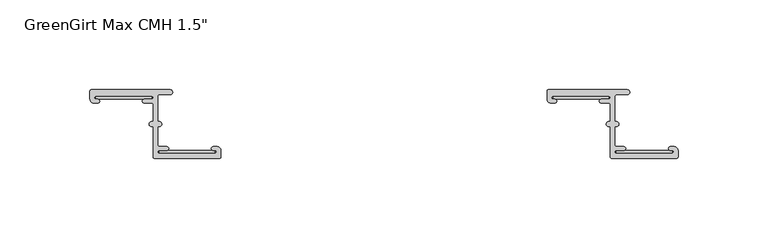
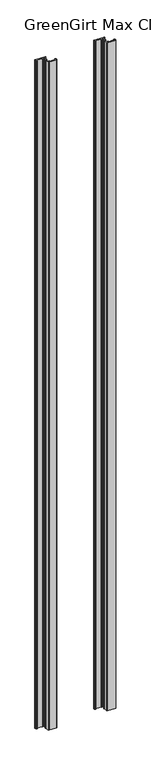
"""IFC4 building model written with IfcOpenShell, lengths in millimetres: fastener geometry."""

from ifc_helpers import new_model, si_unit, frame, origin, origin_with_axes, place, context, project, spatial, polyline, circle_curve, outline, extrude, source, transform, mapped, element, save
from ifc_brep_helpers import plane_surface, cylinder_surface, revolved_surface, advanced_brep


def fastener_8ece5dc1(model_context):
    return source(origin(), model_context, "Body", "SolidModel", [
        advanced_brep(
        [(308.102, -3.556, 3048.0), (339.09, -3.556, 3048.0), (339.09, -5.2832, 3048.0), (334.899, -5.2832, 3048.0), (334.899, -7.3152, 3048.0), (339.09, -7.3152, 3048.0), (339.852, -8.0772, 3048.0), (339.852, -17.7601563, 3048.0), (339.0035567, -17.7601563, 3048.0), (339.0035567, -20.4288947, 3048.0), (339.852, -20.4288947, 3048.0), (339.852, -37.3379766, 3048.0), (340.614, -38.0999766, 3048.0), (376.8513242, -38.1, 3048.0), (377.571, -37.3379766, 3048.0), (377.571, -33.7057766, 3048.0), (375.539, -31.6737766, 3048.0), (373.253, -31.6737766, 3048.0), (373.253, -33.7057766, 3048.0), (374.269, -33.7057766, 3048.0), (374.269, -35.4329766, 3048.0), (343.281, -35.4329766, 3048.0), (343.281, -33.7057766, 3048.0), (347.472, -33.7057766, 3048.0), (347.472, -31.6737766, 3048.0), (343.281, -31.6737766, 3048.0), (342.519, -30.9117766, 3048.0), (342.519, -20.4279799, 3048.0), (343.3679007, -20.4279799, 3048.0), (343.3679007, -17.7601563, 3048.0), (342.519, -17.7601563, 3048.0), (342.519, -3.429, 3048.0), (343.281, -2.667, 3048.0), (349.377, -2.667, 3048.0), (349.377, 0.0, 3048.0), (305.562, 0.0, 3048.0), (304.8, -0.762, 3048.0), (304.8, -5.2832, 3048.0), (306.832, -7.3152, 3048.0), (309.118, -7.3152, 3048.0), (309.118, -5.2832, 3048.0), (308.102, -5.2832, 3048.0), (308.102, -3.556, 0.0), (308.102, -5.2832, 0.0), (309.118, -5.2832, 0.0), (309.118, -7.3152, 0.0), (306.832, -7.3152, 0.0), (304.8, -5.2832, 0.0), (304.8, -0.762, 0.0), (305.562, 0.0, 0.0), (349.377, 0.0, 0.0), (349.377, -2.667, 0.0), (343.281, -2.667, 0.0), (342.519, -3.429, 0.0), (342.519, -17.7601563, 0.0), (343.3679007, -17.7601563, 0.0), (343.3679007, -20.4279799, 0.0), (342.519, -20.4279799, 0.0), (342.519, -30.9117766, 0.0), (343.281, -31.6737766, 0.0), (347.472, -31.6737766, 0.0), (347.472, -33.7057766, 0.0), (343.281, -33.7057766, 0.0), (343.281, -35.4329766, 0.0), (374.269, -35.4329766, 0.0), (374.269, -33.7057766, 0.0), (373.253, -33.7057766, 0.0), (373.253, -31.6737766, 0.0), (375.539, -31.6737766, 0.0), (377.571, -33.7057766, 0.0), (377.571, -37.3379766, 0.0), (376.809, -38.0999766, 0.0), (340.7467826, -38.1, 0.0), (339.852, -37.3379766, 0.0), (339.852, -20.4288947, 0.0), (339.0035567, -20.4288947, 0.0), (339.0035567, -17.7601563, 0.0), (339.852, -17.7601563, 0.0), (339.852, -8.0772, 0.0), (339.09, -7.3152, 0.0), (334.899, -7.3152, 0.0), (334.899, -5.2832, 0.0), (339.09, -5.2832, 0.0), (339.09, -3.556, 0.0)],
        [
            (0, 1),
            (1, 2, circle_curve(frame((339.09, -4.4196, 3048.0), z_axis=(0.0, 0.0, -1.0), x_axis=(1.0, 0.0, 0.0)), 0.8636)),
            (2, 3),
            (3, 4, circle_curve(frame((334.899, -6.2992, 3048.0), z_axis=(0.0, 0.0, 1.0), x_axis=(1.0, 0.0, 0.0)), 1.016)),
            (4, 5),
            (5, 6, circle_curve(frame((339.09, -8.0772, 3048.0), z_axis=(0.0, 0.0, -1.0), x_axis=(1.0, 0.0, 0.0)), 0.762)),
            (6, 7),
            (7, 8),
            (8, 9, circle_curve(frame((339.0035567, -19.0945255, 3048.0), z_axis=(0.0, 0.0, 1.0), x_axis=(1.0, 0.0, 0.0)), 1.3343692)),
            (9, 10),
            (10, 11),
            (11, 12, circle_curve(frame((340.614, -37.3379766, 3048.0), z_axis=(0.0, 0.0, 1.0), x_axis=(1.0, 0.0, 0.0)), 0.762)),
            (12, 13),
            (13, 14, circle_curve(frame((376.809, -37.3379766, 3048.0), z_axis=(0.0, 0.0, 1.0), x_axis=(1.0, 0.0, 0.0)), 0.762)),
            (14, 15),
            (15, 16, circle_curve(frame((375.539, -33.7057766, 3048.0), z_axis=(0.0, 0.0, 1.0), x_axis=(1.0, 0.0, 0.0)), 2.032)),
            (16, 17),
            (17, 18, circle_curve(frame((373.253, -32.6897766, 3048.0), z_axis=(0.0, 0.0, 1.0), x_axis=(1.0, 0.0, 0.0)), 1.016)),
            (18, 19),
            (19, 20, circle_curve(frame((374.269, -34.5693766, 3048.0), z_axis=(0.0, 0.0, -1.0), x_axis=(1.0, 0.0, 0.0)), 0.8636)),
            (20, 21),
            (21, 22, circle_curve(frame((343.281, -34.5693766, 3048.0), z_axis=(0.0, 0.0, -1.0), x_axis=(1.0, 0.0, 0.0)), 0.8636)),
            (22, 23),
            (23, 24, circle_curve(frame((347.472, -32.6897766, 3048.0), z_axis=(0.0, 0.0, 1.0), x_axis=(1.0, 0.0, 0.0)), 1.016)),
            (24, 25),
            (25, 26, circle_curve(frame((343.281, -30.9117766, 3048.0), z_axis=(0.0, 0.0, -1.0), x_axis=(1.0, 0.0, 0.0)), 0.762)),
            (26, 27),
            (27, 28),
            (28, 29, circle_curve(frame((343.3679007, -19.0940681, 3048.0), z_axis=(0.0, 0.0, 1.0), x_axis=(1.0, 0.0, 0.0)), 1.3339118)),
            (29, 30),
            (30, 31),
            (31, 32, circle_curve(frame((343.281, -3.429, 3048.0), z_axis=(0.0, 0.0, -1.0), x_axis=(1.0, 0.0, 0.0)), 0.762)),
            (32, 33),
            (33, 34, circle_curve(frame((349.377, -1.3335, 3048.0), z_axis=(0.0, 0.0, 1.0), x_axis=(1.0, 0.0, 0.0)), 1.3335)),
            (34, 35),
            (35, 36, circle_curve(frame((305.562, -0.762, 3048.0), z_axis=(0.0, 0.0, 1.0), x_axis=(1.0, 0.0, 0.0)), 0.762)),
            (36, 37),
            (37, 38, circle_curve(frame((306.832, -5.2832, 3048.0), z_axis=(0.0, 0.0, 1.0), x_axis=(1.0, 0.0, 0.0)), 2.032)),
            (38, 39),
            (39, 40, circle_curve(frame((309.118, -6.2992, 3048.0), z_axis=(0.0, 0.0, 1.0), x_axis=(1.0, 0.0, 0.0)), 1.016)),
            (40, 41),
            (41, 0, circle_curve(frame((308.102, -4.4196, 3048.0), z_axis=(0.0, 0.0, -1.0), x_axis=(1.0, 0.0, 0.0)), 0.8636)),
            (42, 43, circle_curve(frame((308.102, -4.4196, 0.0), z_axis=(0.0, 0.0, 1.0), x_axis=(1.0, 0.0, 0.0)), 0.8636)),
            (43, 44),
            (44, 45, circle_curve(frame((309.118, -6.2992, 0.0), z_axis=(0.0, 0.0, -1.0), x_axis=(1.0, 0.0, 0.0)), 1.016)),
            (45, 46),
            (46, 47, circle_curve(frame((306.832, -5.2832, 0.0), z_axis=(0.0, 0.0, -1.0), x_axis=(1.0, 0.0, 0.0)), 2.032)),
            (47, 48),
            (48, 49, circle_curve(frame((305.562, -0.762, 0.0), z_axis=(0.0, 0.0, -1.0), x_axis=(1.0, 0.0, 0.0)), 0.762)),
            (49, 50),
            (50, 51, circle_curve(frame((349.377, -1.3335, 0.0), z_axis=(0.0, 0.0, -1.0), x_axis=(1.0, 0.0, 0.0)), 1.3335)),
            (51, 52),
            (52, 53, circle_curve(frame((343.281, -3.429, 0.0), z_axis=(0.0, 0.0, 1.0), x_axis=(1.0, 0.0, 0.0)), 0.762)),
            (53, 54),
            (54, 55),
            (55, 56, circle_curve(frame((343.3679007, -19.0940681, 0.0), z_axis=(0.0, 0.0, -1.0), x_axis=(1.0, 0.0, 0.0)), 1.3339118)),
            (56, 57),
            (57, 58),
            (58, 59, circle_curve(frame((343.281, -30.9117766, 0.0), z_axis=(0.0, 0.0, 1.0), x_axis=(1.0, 0.0, 0.0)), 0.762)),
            (59, 60),
            (60, 61, circle_curve(frame((347.472, -32.6897766, 0.0), z_axis=(0.0, 0.0, -1.0), x_axis=(1.0, 0.0, 0.0)), 1.016)),
            (61, 62),
            (62, 63, circle_curve(frame((343.281, -34.5693766, 0.0), z_axis=(0.0, 0.0, 1.0), x_axis=(1.0, 0.0, 0.0)), 0.8636)),
            (63, 64),
            (64, 65, circle_curve(frame((374.269, -34.5693766, 0.0), z_axis=(0.0, 0.0, 1.0), x_axis=(1.0, 0.0, 0.0)), 0.8636)),
            (65, 66),
            (66, 67, circle_curve(frame((373.253, -32.6897766, 0.0), z_axis=(0.0, 0.0, -1.0), x_axis=(1.0, 0.0, 0.0)), 1.016)),
            (67, 68),
            (68, 69, circle_curve(frame((375.539, -33.7057766, 0.0), z_axis=(0.0, 0.0, -1.0), x_axis=(1.0, 0.0, 0.0)), 2.032)),
            (69, 70),
            (70, 71, circle_curve(frame((376.809, -37.3379766, 0.0), z_axis=(0.0, 0.0, -1.0), x_axis=(1.0, 0.0, 0.0)), 0.762)),
            (71, 72),
            (72, 73, circle_curve(frame((340.614, -37.3379766, 0.0), z_axis=(0.0, 0.0, -1.0), x_axis=(1.0, 0.0, 0.0)), 0.762)),
            (73, 74),
            (74, 75),
            (75, 76, circle_curve(frame((339.0035567, -19.0945255, 0.0), z_axis=(0.0, 0.0, -1.0), x_axis=(1.0, 0.0, 0.0)), 1.3343692)),
            (76, 77),
            (77, 78),
            (78, 79, circle_curve(frame((339.09, -8.0772, 0.0), z_axis=(0.0, 0.0, 1.0), x_axis=(1.0, 0.0, 0.0)), 0.762)),
            (79, 80),
            (80, 81, circle_curve(frame((334.899, -6.2992, 0.0), z_axis=(0.0, 0.0, -1.0), x_axis=(1.0, 0.0, 0.0)), 1.016)),
            (81, 82),
            (82, 83, circle_curve(frame((339.09, -4.4196, 0.0), z_axis=(0.0, 0.0, 1.0), x_axis=(1.0, 0.0, 0.0)), 0.8636)),
            (83, 42),
            (0, 42),
            (83, 1),
            (82, 2),
            (81, 3),
            (80, 4),
            (79, 5),
            (78, 6),
            (77, 7),
            (76, 8),
            (75, 9),
            (74, 10),
            (73, 11),
            (72, 12),
            (71, 13),
            (70, 14),
            (69, 15),
            (68, 16),
            (67, 17),
            (66, 18),
            (65, 19),
            (64, 20),
            (63, 21),
            (62, 22),
            (61, 23),
            (60, 24),
            (59, 25),
            (58, 26),
            (57, 27),
            (56, 28),
            (55, 29),
            (54, 30),
            (53, 31),
            (52, 32),
            (51, 33),
            (50, 34),
            (49, 35),
            (48, 36),
            (47, 37),
            (46, 38),
            (45, 39),
            (44, 40),
            (43, 41),
        ],
        [
            plane_surface(frame((339.09, -3.556, 3048.0), z_axis=(0.0, 0.0, 1.0), x_axis=(1.0, 0.0, 0.0))),
            plane_surface(frame((339.09, -3.556, 0.0), z_axis=(0.0, 0.0, -1.0), x_axis=(-1.0, 0.0, 0.0))),
            plane_surface(frame((308.102, -3.556, 3048.0), z_axis=(0.0, -1.0, 0.0), x_axis=(0.0, 0.0, -1.0))),
            revolved_surface(polyline([(339.9536, -4.4196, 0.0), (339.9536, -4.4196, 3048.0)]), (339.09, -4.4196, 0.0), (0.0, 0.0, -1.0)),
            plane_surface(frame((339.09, -5.2832, 3048.0), z_axis=(0.0, 1.0, 0.0), x_axis=(0.0, 0.0, -1.0))),
            cylinder_surface(frame((334.899, -6.2992, 0.0), z_axis=(0.0, 0.0, 1.0), x_axis=(1.0, 0.0, 0.0)), 1.016),
            plane_surface(frame((334.899, -7.3152, 3048.0), z_axis=(0.0, -1.0, 0.0), x_axis=(0.0, 0.0, -1.0))),
            revolved_surface(polyline([(339.852, -8.0772, 0.0), (339.852, -8.0772, 3048.0)]), (339.09, -8.0772, 0.0), (0.0, 0.0, -1.0)),
            plane_surface(frame((339.852, -8.0772, 3048.0), z_axis=(-1.0, 0.0, 0.0), x_axis=(0.0, 0.0, -1.0))),
            plane_surface(frame((339.852, -17.7601563, 3048.0), z_axis=(0.0, 1.0, 0.0), x_axis=(0.0, 0.0, -1.0))),
            cylinder_surface(frame((339.0035567, -19.0945255, 0.0), z_axis=(0.0, 0.0, 1.0), x_axis=(1.0, 0.0, 0.0)), 1.3343692),
            plane_surface(frame((339.0035567, -20.4288947, 3048.0), z_axis=(0.0, -1.0, 0.0), x_axis=(0.0, 0.0, -1.0))),
            plane_surface(frame((339.852, -20.4288947, 3048.0), z_axis=(-1.0, 0.0, 0.0), x_axis=(0.0, 0.0, -1.0))),
            cylinder_surface(frame((340.614, -37.3379766, 0.0), z_axis=(0.0, 0.0, 1.0), x_axis=(1.0, 0.0, 0.0)), 0.762),
            plane_surface(frame((340.7467826, -38.1, 3048.0), z_axis=(0.0, -1.0, 0.0), x_axis=(0.0, 0.0, -1.0))),
            cylinder_surface(frame((376.809, -37.3379766, 0.0), z_axis=(0.0, 0.0, 1.0), x_axis=(1.0, 0.0, 0.0)), 0.762),
            plane_surface(frame((377.571, -37.3379766, 3048.0), z_axis=(1.0, 1.094695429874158e-12, 0.0), x_axis=(0.0, 0.0, -1.0))),
            cylinder_surface(frame((375.539, -33.7057766, 0.0), z_axis=(0.0, 0.0, 1.0), x_axis=(1.0, 0.0, 0.0)), 2.032),
            plane_surface(frame((375.539, -31.6737766, 3048.0), z_axis=(0.0, 1.0, 0.0), x_axis=(0.0, 0.0, -1.0))),
            cylinder_surface(frame((373.253, -32.6897766, 0.0), z_axis=(0.0, 0.0, 1.0), x_axis=(1.0, 0.0, 0.0)), 1.016),
            plane_surface(frame((373.253, -33.7057766, 3048.0), z_axis=(0.0, -1.0, 0.0), x_axis=(0.0, 0.0, -1.0))),
            revolved_surface(polyline([(375.1326, -34.5693766, 0.0), (375.1326, -34.5693766, 3048.0)]), (374.269, -34.5693766, 0.0), (0.0, 0.0, -1.0)),
            plane_surface(frame((374.269, -35.4329766, 3048.0), z_axis=(0.0, 1.0, 0.0), x_axis=(0.0, 0.0, -1.0))),
            revolved_surface(polyline([(344.1446, -34.5693766, 0.0), (344.1446, -34.5693766, 3048.0)]), (343.281, -34.5693766, 0.0), (0.0, 0.0, -1.0)),
            plane_surface(frame((343.281, -33.7057766, 3048.0), z_axis=(0.0, -1.0, 0.0), x_axis=(0.0, 0.0, -1.0))),
            cylinder_surface(frame((347.472, -32.6897766, 0.0), z_axis=(0.0, 0.0, 1.0), x_axis=(1.0, 0.0, 0.0)), 1.016),
            plane_surface(frame((347.472, -31.6737766, 3048.0), z_axis=(0.0, 1.0, 0.0), x_axis=(0.0, 0.0, -1.0))),
            revolved_surface(polyline([(344.043, -30.9117766, 0.0), (344.043, -30.9117766, 3048.0)]), (343.281, -30.9117766, 0.0), (0.0, 0.0, -1.0)),
            plane_surface(frame((342.519, -30.9117766, 3048.0), z_axis=(1.0, 0.0, 0.0), x_axis=(0.0, 0.0, -1.0))),
            plane_surface(frame((342.519, -20.4279799, 3048.0), z_axis=(0.0, -1.0, 0.0), x_axis=(0.0, 0.0, -1.0))),
            cylinder_surface(frame((343.3679007, -19.0940681, 0.0), z_axis=(0.0, 0.0, 1.0), x_axis=(1.0, 0.0, 0.0)), 1.3339118),
            plane_surface(frame((343.3679007, -17.7601563, 3048.0), z_axis=(0.0, 1.0, 0.0), x_axis=(0.0, 0.0, -1.0))),
            plane_surface(frame((342.519, -17.7601563, 3048.0), z_axis=(1.0, 0.0, 0.0), x_axis=(0.0, 0.0, -1.0))),
            revolved_surface(polyline([(344.043, -3.429, 0.0), (344.043, -3.429, 3048.0)]), (343.281, -3.429, 0.0), (0.0, 0.0, -1.0)),
            plane_surface(frame((343.281, -2.667, 3048.0), z_axis=(0.0, -1.0, 0.0), x_axis=(0.0, 0.0, -1.0))),
            cylinder_surface(frame((349.377, -1.3335, 0.0), z_axis=(0.0, 0.0, 1.0), x_axis=(1.0, 0.0, 0.0)), 1.3335),
            plane_surface(frame((349.377, 0.0, 3048.0), z_axis=(0.0, 1.0, 0.0), x_axis=(0.0, 0.0, -1.0))),
            cylinder_surface(frame((305.562, -0.762, 0.0), z_axis=(0.0, 0.0, 1.0), x_axis=(1.0, 0.0, 0.0)), 0.762),
            plane_surface(frame((304.8, -0.762, 3048.0), z_axis=(-1.0, 1.1909948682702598e-12, 0.0), x_axis=(0.0, 0.0, -1.0))),
            cylinder_surface(frame((306.832, -5.2832, 0.0), z_axis=(0.0, 0.0, 1.0), x_axis=(1.0, 0.0, 0.0)), 2.032),
            plane_surface(frame((306.832, -7.3152, 3048.0), z_axis=(0.0, -1.0, 0.0), x_axis=(0.0, 0.0, -1.0))),
            cylinder_surface(frame((309.118, -6.2992, 0.0), z_axis=(0.0, 0.0, 1.0), x_axis=(1.0, 0.0, 0.0)), 1.016),
            plane_surface(frame((309.118, -5.2832, 3048.0), z_axis=(0.0, 1.0, 0.0), x_axis=(0.0, 0.0, -1.0))),
            revolved_surface(polyline([(308.9656, -4.4196, 0.0), (308.9656, -4.4196, 3048.0)]), (308.102, -4.4196, 0.0), (0.0, 0.0, -1.0)),
        ],
        [
            (0, [[1, 2, 3, 4, 5, 6, 7, 8, 9, 10, 11, 12, 13, 14, 15, 16, 17, 18, 19, 20, 21, 22, 23, 24, 25, 26, 27, 28, 29, 30, 31, 32, 33, 34, 35, 36, 37, 38, 39, 40, 41, 42]]),
            (1, [[43, 44, 45, 46, 47, 48, 49, 50, 51, 52, 53, 54, 55, 56, 57, 58, 59, 60, 61, 62, 63, 64, 65, 66, 67, 68, 69, 70, 71, 72, 73, 74, 75, 76, 77, 78, 79, 80, 81, 82, 83, 84]]),
            (2, [[-1, 85, -84, 86]]),
            (3, [[-2, -86, -83, 87]]),
            (4, [[-3, -87, -82, 88]]),
            (5, [[-4, -88, -81, 89]]),
            (6, [[-5, -89, -80, 90]]),
            (7, [[-6, -90, -79, 91]]),
            (8, [[-7, -91, -78, 92]]),
            (9, [[-8, -92, -77, 93]]),
            (10, [[-9, -93, -76, 94]]),
            (11, [[-10, -94, -75, 95]]),
            (12, [[-11, -95, -74, 96]]),
            (13, [[-12, -96, -73, 97]]),
            (14, [[-13, -97, -72, 98]]),
            (15, [[-14, -98, -71, 99]]),
            (16, [[-15, -99, -70, 100]]),
            (17, [[-16, -100, -69, 101]]),
            (18, [[-17, -101, -68, 102]]),
            (19, [[-18, -102, -67, 103]]),
            (20, [[-19, -103, -66, 104]]),
            (21, [[-20, -104, -65, 105]]),
            (22, [[-21, -105, -64, 106]]),
            (23, [[-22, -106, -63, 107]]),
            (24, [[-23, -107, -62, 108]]),
            (25, [[-24, -108, -61, 109]]),
            (26, [[-25, -109, -60, 110]]),
            (27, [[-26, -110, -59, 111]]),
            (28, [[-27, -111, -58, 112]]),
            (29, [[-28, -112, -57, 113]]),
            (30, [[-29, -113, -56, 114]]),
            (31, [[-30, -114, -55, 115]]),
            (32, [[-31, -115, -54, 116]]),
            (33, [[-32, -116, -53, 117]]),
            (34, [[-33, -117, -52, 118]]),
            (35, [[-34, -118, -51, 119]]),
            (36, [[-35, -119, -50, 120]]),
            (37, [[-36, -120, -49, 121]]),
            (38, [[-37, -121, -48, 122]]),
            (39, [[-38, -122, -47, 123]]),
            (40, [[-39, -123, -46, 124]]),
            (41, [[-40, -124, -45, 125]]),
            (42, [[-41, -125, -44, 126]]),
            (43, [[-42, -126, -43, -85]]),
        ],
    ),
        extrude(outline(polyline([(339.09, -3.556), (339.09, -5.2832), (308.102, -5.2832), (308.102, -3.556), (339.09, -3.556)])), origin_with_axes(), (0.0, 0.0, 1.0), 3048.0),
        extrude(outline(polyline([(374.269, -33.7057766), (374.269, -35.4329766), (343.281, -35.4329766), (343.281, -33.7057766), (374.269, -33.7057766)])), origin_with_axes(), (0.0, 0.0, 1.0), 3048.0),
        advanced_brep(
        [(54.102, -3.556, 3048.0), (85.09, -3.556, 3048.0), (85.09, -5.2832, 3048.0), (80.899, -5.2832, 3048.0), (80.899, -7.3152, 3048.0), (85.09, -7.3152, 3048.0), (85.852, -8.0772, 3048.0), (85.852, -17.7601563, 3048.0), (85.0035567, -17.7601563, 3048.0), (85.0035567, -20.4288947, 3048.0), (85.852, -20.4288947, 3048.0), (85.852, -37.3379766, 3048.0), (86.614, -38.0999766, 3048.0), (122.8513242, -38.1, 3048.0), (123.571, -37.3379766, 3048.0), (123.571, -33.7057766, 3048.0), (121.539, -31.6737766, 3048.0), (119.253, -31.6737766, 3048.0), (119.253, -33.7057766, 3048.0), (120.269, -33.7057766, 3048.0), (120.269, -35.4329766, 3048.0), (89.281, -35.4329766, 3048.0), (89.281, -33.7057766, 3048.0), (93.472, -33.7057766, 3048.0), (93.472, -31.6737766, 3048.0), (89.281, -31.6737766, 3048.0), (88.519, -30.9117766, 3048.0), (88.519, -20.4279799, 3048.0), (89.3679007, -20.4279799, 3048.0), (89.3679007, -17.7601563, 3048.0), (88.519, -17.7601563, 3048.0), (88.519, -3.429, 3048.0), (89.281, -2.667, 3048.0), (95.377, -2.667, 3048.0), (95.377, 0.0, 3048.0), (51.562, 0.0, 3048.0), (50.8, -0.762, 3048.0), (50.8, -5.2832, 3048.0), (52.832, -7.3152, 3048.0), (55.118, -7.3152, 3048.0), (55.118, -5.2832, 3048.0), (54.102, -5.2832, 3048.0), (54.102, -3.556, 0.0), (54.102, -5.2832, 0.0), (55.118, -5.2832, 0.0), (55.118, -7.3152, 0.0), (52.832, -7.3152, 0.0), (50.8, -5.2832, 0.0), (50.8, -0.762, 0.0), (51.562, 0.0, 0.0), (95.377, 0.0, 0.0), (95.377, -2.667, 0.0), (89.281, -2.667, 0.0), (88.519, -3.429, 0.0), (88.519, -17.7601563, 0.0), (89.3679007, -17.7601563, 0.0), (89.3679007, -20.4279799, 0.0), (88.519, -20.4279799, 0.0), (88.519, -30.9117766, 0.0), (89.281, -31.6737766, 0.0), (93.472, -31.6737766, 0.0), (93.472, -33.7057766, 0.0), (89.281, -33.7057766, 0.0), (89.281, -35.4329766, 0.0), (120.269, -35.4329766, 0.0), (120.269, -33.7057766, 0.0), (119.253, -33.7057766, 0.0), (119.253, -31.6737766, 0.0), (121.539, -31.6737766, 0.0), (123.571, -33.7057766, 0.0), (123.571, -37.3379766, 0.0), (122.809, -38.0999766, 0.0), (86.7467826, -38.1, 0.0), (85.852, -37.3379766, 0.0), (85.852, -20.4288947, 0.0), (85.0035567, -20.4288947, 0.0), (85.0035567, -17.7601563, 0.0), (85.852, -17.7601563, 0.0), (85.852, -8.0772, 0.0), (85.09, -7.3152, 0.0), (80.899, -7.3152, 0.0), (80.899, -5.2832, 0.0), (85.09, -5.2832, 0.0), (85.09, -3.556, 0.0)],
        [
            (0, 1),
            (1, 2, circle_curve(frame((85.09, -4.4196, 3048.0), z_axis=(0.0, 0.0, -1.0), x_axis=(1.0, 0.0, 0.0)), 0.8636)),
            (2, 3),
            (3, 4, circle_curve(frame((80.899, -6.2992, 3048.0), z_axis=(0.0, 0.0, 1.0), x_axis=(1.0, 0.0, 0.0)), 1.016)),
            (4, 5),
            (5, 6, circle_curve(frame((85.09, -8.0772, 3048.0), z_axis=(0.0, 0.0, -1.0), x_axis=(1.0, 0.0, 0.0)), 0.762)),
            (6, 7),
            (7, 8),
            (8, 9, circle_curve(frame((85.0035567, -19.0945255, 3048.0), z_axis=(0.0, 0.0, 1.0), x_axis=(1.0, 0.0, 0.0)), 1.3343692)),
            (9, 10),
            (10, 11),
            (11, 12, circle_curve(frame((86.614, -37.3379766, 3048.0), z_axis=(0.0, 0.0, 1.0), x_axis=(1.0, 0.0, 0.0)), 0.762)),
            (12, 13),
            (13, 14, circle_curve(frame((122.809, -37.3379766, 3048.0), z_axis=(0.0, 0.0, 1.0), x_axis=(1.0, 0.0, 0.0)), 0.762)),
            (14, 15),
            (15, 16, circle_curve(frame((121.539, -33.7057766, 3048.0), z_axis=(0.0, 0.0, 1.0), x_axis=(1.0, 0.0, 0.0)), 2.032)),
            (16, 17),
            (17, 18, circle_curve(frame((119.253, -32.6897766, 3048.0), z_axis=(0.0, 0.0, 1.0), x_axis=(1.0, 0.0, 0.0)), 1.016)),
            (18, 19),
            (19, 20, circle_curve(frame((120.269, -34.5693766, 3048.0), z_axis=(0.0, 0.0, -1.0), x_axis=(1.0, 0.0, 0.0)), 0.8636)),
            (20, 21),
            (21, 22, circle_curve(frame((89.281, -34.5693766, 3048.0), z_axis=(0.0, 0.0, -1.0), x_axis=(1.0, 0.0, 0.0)), 0.8636)),
            (22, 23),
            (23, 24, circle_curve(frame((93.472, -32.6897766, 3048.0), z_axis=(0.0, 0.0, 1.0), x_axis=(1.0, 0.0, 0.0)), 1.016)),
            (24, 25),
            (25, 26, circle_curve(frame((89.281, -30.9117766, 3048.0), z_axis=(0.0, 0.0, -1.0), x_axis=(1.0, 0.0, 0.0)), 0.762)),
            (26, 27),
            (27, 28),
            (28, 29, circle_curve(frame((89.3679007, -19.0940681, 3048.0), z_axis=(0.0, 0.0, 1.0), x_axis=(1.0, 0.0, 0.0)), 1.3339118)),
            (29, 30),
            (30, 31),
            (31, 32, circle_curve(frame((89.281, -3.429, 3048.0), z_axis=(0.0, 0.0, -1.0), x_axis=(1.0, 0.0, 0.0)), 0.762)),
            (32, 33),
            (33, 34, circle_curve(frame((95.377, -1.3335, 3048.0), z_axis=(0.0, 0.0, 1.0), x_axis=(1.0, 0.0, 0.0)), 1.3335)),
            (34, 35),
            (35, 36, circle_curve(frame((51.562, -0.762, 3048.0), z_axis=(0.0, 0.0, 1.0), x_axis=(1.0, 0.0, 0.0)), 0.762)),
            (36, 37),
            (37, 38, circle_curve(frame((52.832, -5.2832, 3048.0), z_axis=(0.0, 0.0, 1.0), x_axis=(1.0, 0.0, 0.0)), 2.032)),
            (38, 39),
            (39, 40, circle_curve(frame((55.118, -6.2992, 3048.0), z_axis=(0.0, 0.0, 1.0), x_axis=(1.0, 0.0, 0.0)), 1.016)),
            (40, 41),
            (41, 0, circle_curve(frame((54.102, -4.4196, 3048.0), z_axis=(0.0, 0.0, -1.0), x_axis=(1.0, 0.0, 0.0)), 0.8636)),
            (42, 43, circle_curve(frame((54.102, -4.4196, 0.0), z_axis=(0.0, 0.0, 1.0), x_axis=(1.0, 0.0, 0.0)), 0.8636)),
            (43, 44),
            (44, 45, circle_curve(frame((55.118, -6.2992, 0.0), z_axis=(0.0, 0.0, -1.0), x_axis=(1.0, 0.0, 0.0)), 1.016)),
            (45, 46),
            (46, 47, circle_curve(frame((52.832, -5.2832, 0.0), z_axis=(0.0, 0.0, -1.0), x_axis=(1.0, 0.0, 0.0)), 2.032)),
            (47, 48),
            (48, 49, circle_curve(frame((51.562, -0.762, 0.0), z_axis=(0.0, 0.0, -1.0), x_axis=(1.0, 0.0, 0.0)), 0.762)),
            (49, 50),
            (50, 51, circle_curve(frame((95.377, -1.3335, 0.0), z_axis=(0.0, 0.0, -1.0), x_axis=(1.0, 0.0, 0.0)), 1.3335)),
            (51, 52),
            (52, 53, circle_curve(frame((89.281, -3.429, 0.0), z_axis=(0.0, 0.0, 1.0), x_axis=(1.0, 0.0, 0.0)), 0.762)),
            (53, 54),
            (54, 55),
            (55, 56, circle_curve(frame((89.3679007, -19.0940681, 0.0), z_axis=(0.0, 0.0, -1.0), x_axis=(1.0, 0.0, 0.0)), 1.3339118)),
            (56, 57),
            (57, 58),
            (58, 59, circle_curve(frame((89.281, -30.9117766, 0.0), z_axis=(0.0, 0.0, 1.0), x_axis=(1.0, 0.0, 0.0)), 0.762)),
            (59, 60),
            (60, 61, circle_curve(frame((93.472, -32.6897766, 0.0), z_axis=(0.0, 0.0, -1.0), x_axis=(1.0, 0.0, 0.0)), 1.016)),
            (61, 62),
            (62, 63, circle_curve(frame((89.281, -34.5693766, 0.0), z_axis=(0.0, 0.0, 1.0), x_axis=(1.0, 0.0, 0.0)), 0.8636)),
            (63, 64),
            (64, 65, circle_curve(frame((120.269, -34.5693766, 0.0), z_axis=(0.0, 0.0, 1.0), x_axis=(1.0, 0.0, 0.0)), 0.8636)),
            (65, 66),
            (66, 67, circle_curve(frame((119.253, -32.6897766, 0.0), z_axis=(0.0, 0.0, -1.0), x_axis=(1.0, 0.0, 0.0)), 1.016)),
            (67, 68),
            (68, 69, circle_curve(frame((121.539, -33.7057766, 0.0), z_axis=(0.0, 0.0, -1.0), x_axis=(1.0, 0.0, 0.0)), 2.032)),
            (69, 70),
            (70, 71, circle_curve(frame((122.809, -37.3379766, 0.0), z_axis=(0.0, 0.0, -1.0), x_axis=(1.0, 0.0, 0.0)), 0.762)),
            (71, 72),
            (72, 73, circle_curve(frame((86.614, -37.3379766, 0.0), z_axis=(0.0, 0.0, -1.0), x_axis=(1.0, 0.0, 0.0)), 0.762)),
            (73, 74),
            (74, 75),
            (75, 76, circle_curve(frame((85.0035567, -19.0945255, 0.0), z_axis=(0.0, 0.0, -1.0), x_axis=(1.0, 0.0, 0.0)), 1.3343692)),
            (76, 77),
            (77, 78),
            (78, 79, circle_curve(frame((85.09, -8.0772, 0.0), z_axis=(0.0, 0.0, 1.0), x_axis=(1.0, 0.0, 0.0)), 0.762)),
            (79, 80),
            (80, 81, circle_curve(frame((80.899, -6.2992, 0.0), z_axis=(0.0, 0.0, -1.0), x_axis=(1.0, 0.0, 0.0)), 1.016)),
            (81, 82),
            (82, 83, circle_curve(frame((85.09, -4.4196, 0.0), z_axis=(0.0, 0.0, 1.0), x_axis=(1.0, 0.0, 0.0)), 0.8636)),
            (83, 42),
            (0, 42),
            (83, 1),
            (82, 2),
            (81, 3),
            (80, 4),
            (79, 5),
            (78, 6),
            (77, 7),
            (76, 8),
            (75, 9),
            (74, 10),
            (73, 11),
            (72, 12),
            (71, 13),
            (70, 14),
            (69, 15),
            (68, 16),
            (67, 17),
            (66, 18),
            (65, 19),
            (64, 20),
            (63, 21),
            (62, 22),
            (61, 23),
            (60, 24),
            (59, 25),
            (58, 26),
            (57, 27),
            (56, 28),
            (55, 29),
            (54, 30),
            (53, 31),
            (52, 32),
            (51, 33),
            (50, 34),
            (49, 35),
            (48, 36),
            (47, 37),
            (46, 38),
            (45, 39),
            (44, 40),
            (43, 41),
        ],
        [
            plane_surface(frame((85.09, -3.556, 3048.0), z_axis=(0.0, 0.0, 1.0), x_axis=(1.0, 0.0, 0.0))),
            plane_surface(frame((85.09, -3.556, 0.0), z_axis=(0.0, 0.0, -1.0), x_axis=(-1.0, 0.0, 0.0))),
            plane_surface(frame((54.102, -3.556, 3048.0), z_axis=(0.0, -1.0, 0.0), x_axis=(0.0, 0.0, -1.0))),
            revolved_surface(polyline([(85.95360000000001, -4.4196, 0.0), (85.95360000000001, -4.4196, 3048.0)]), (85.09, -4.4196, 0.0), (0.0, 0.0, -1.0)),
            plane_surface(frame((85.09, -5.2832, 3048.0), z_axis=(0.0, 1.0, 0.0), x_axis=(0.0, 0.0, -1.0))),
            cylinder_surface(frame((80.899, -6.2992, 0.0), z_axis=(0.0, 0.0, 1.0), x_axis=(1.0, 0.0, 0.0)), 1.016),
            plane_surface(frame((80.899, -7.3152, 3048.0), z_axis=(0.0, -1.0, 0.0), x_axis=(0.0, 0.0, -1.0))),
            revolved_surface(polyline([(85.852, -8.0772, 0.0), (85.852, -8.0772, 3048.0)]), (85.09, -8.0772, 0.0), (0.0, 0.0, -1.0)),
            plane_surface(frame((85.852, -8.0772, 3048.0), z_axis=(-1.0, 0.0, 0.0), x_axis=(0.0, 0.0, -1.0))),
            plane_surface(frame((85.852, -17.7601563, 3048.0), z_axis=(0.0, 1.0, 0.0), x_axis=(0.0, 0.0, -1.0))),
            cylinder_surface(frame((85.0035567, -19.0945255, 0.0), z_axis=(0.0, 0.0, 1.0), x_axis=(1.0, 0.0, 0.0)), 1.3343692),
            plane_surface(frame((85.0035567, -20.4288947, 3048.0), z_axis=(0.0, -1.0, 0.0), x_axis=(0.0, 0.0, -1.0))),
            plane_surface(frame((85.852, -20.4288947, 3048.0), z_axis=(-1.0, 0.0, 0.0), x_axis=(0.0, 0.0, -1.0))),
            cylinder_surface(frame((86.614, -37.3379766, 0.0), z_axis=(0.0, 0.0, 1.0), x_axis=(1.0, 0.0, 0.0)), 0.762),
            plane_surface(frame((86.7467826, -38.1, 3048.0), z_axis=(0.0, -1.0, 0.0), x_axis=(0.0, 0.0, -1.0))),
            cylinder_surface(frame((122.809, -37.3379766, 0.0), z_axis=(0.0, 0.0, 1.0), x_axis=(1.0, 0.0, 0.0)), 0.762),
            plane_surface(frame((123.571, -37.3379766, 3048.0), z_axis=(1.0, 1.094695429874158e-12, 0.0), x_axis=(0.0, 0.0, -1.0))),
            cylinder_surface(frame((121.539, -33.7057766, 0.0), z_axis=(0.0, 0.0, 1.0), x_axis=(1.0, 0.0, 0.0)), 2.032),
            plane_surface(frame((121.539, -31.6737766, 3048.0), z_axis=(0.0, 1.0, 0.0), x_axis=(0.0, 0.0, -1.0))),
            cylinder_surface(frame((119.253, -32.6897766, 0.0), z_axis=(0.0, 0.0, 1.0), x_axis=(1.0, 0.0, 0.0)), 1.016),
            plane_surface(frame((119.253, -33.7057766, 3048.0), z_axis=(0.0, -1.0, 0.0), x_axis=(0.0, 0.0, -1.0))),
            revolved_surface(polyline([(121.13260000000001, -34.5693766, 0.0), (121.13260000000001, -34.5693766, 3048.0)]), (120.269, -34.5693766, 0.0), (0.0, 0.0, -1.0)),
            plane_surface(frame((120.269, -35.4329766, 3048.0), z_axis=(0.0, 1.0, 0.0), x_axis=(0.0, 0.0, -1.0))),
            revolved_surface(polyline([(90.14460000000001, -34.5693766, 0.0), (90.14460000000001, -34.5693766, 3048.0)]), (89.281, -34.5693766, 0.0), (0.0, 0.0, -1.0)),
            plane_surface(frame((89.281, -33.7057766, 3048.0), z_axis=(0.0, -1.0, 0.0), x_axis=(0.0, 0.0, -1.0))),
            cylinder_surface(frame((93.472, -32.6897766, 0.0), z_axis=(0.0, 0.0, 1.0), x_axis=(1.0, 0.0, 0.0)), 1.016),
            plane_surface(frame((93.472, -31.6737766, 3048.0), z_axis=(0.0, 1.0, 0.0), x_axis=(0.0, 0.0, -1.0))),
            revolved_surface(polyline([(90.043, -30.9117766, 0.0), (90.043, -30.9117766, 3048.0)]), (89.281, -30.9117766, 0.0), (0.0, 0.0, -1.0)),
            plane_surface(frame((88.519, -30.9117766, 3048.0), z_axis=(1.0, 0.0, 0.0), x_axis=(0.0, 0.0, -1.0))),
            plane_surface(frame((88.519, -20.4279799, 3048.0), z_axis=(0.0, -1.0, 0.0), x_axis=(0.0, 0.0, -1.0))),
            cylinder_surface(frame((89.3679007, -19.0940681, 0.0), z_axis=(0.0, 0.0, 1.0), x_axis=(1.0, 0.0, 0.0)), 1.3339118),
            plane_surface(frame((89.3679007, -17.7601563, 3048.0), z_axis=(0.0, 1.0, 0.0), x_axis=(0.0, 0.0, -1.0))),
            plane_surface(frame((88.519, -17.7601563, 3048.0), z_axis=(1.0, 0.0, 0.0), x_axis=(0.0, 0.0, -1.0))),
            revolved_surface(polyline([(90.043, -3.429, 0.0), (90.043, -3.429, 3048.0)]), (89.281, -3.429, 0.0), (0.0, 0.0, -1.0)),
            plane_surface(frame((89.281, -2.667, 3048.0), z_axis=(0.0, -1.0, 0.0), x_axis=(0.0, 0.0, -1.0))),
            cylinder_surface(frame((95.377, -1.3335, 0.0), z_axis=(0.0, 0.0, 1.0), x_axis=(1.0, 0.0, 0.0)), 1.3335),
            plane_surface(frame((95.377, 0.0, 3048.0), z_axis=(0.0, 1.0, 0.0), x_axis=(0.0, 0.0, -1.0))),
            cylinder_surface(frame((51.562, -0.762, 0.0), z_axis=(0.0, 0.0, 1.0), x_axis=(1.0, 0.0, 0.0)), 0.762),
            plane_surface(frame((50.8, -0.762, 3048.0), z_axis=(-1.0, 1.1909948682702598e-12, 0.0), x_axis=(0.0, 0.0, -1.0))),
            cylinder_surface(frame((52.832, -5.2832, 0.0), z_axis=(0.0, 0.0, 1.0), x_axis=(1.0, 0.0, 0.0)), 2.032),
            plane_surface(frame((52.832, -7.3152, 3048.0), z_axis=(0.0, -1.0, 0.0), x_axis=(0.0, 0.0, -1.0))),
            cylinder_surface(frame((55.118, -6.2992, 0.0), z_axis=(0.0, 0.0, 1.0), x_axis=(1.0, 0.0, 0.0)), 1.016),
            plane_surface(frame((55.118, -5.2832, 3048.0), z_axis=(0.0, 1.0, 0.0), x_axis=(0.0, 0.0, -1.0))),
            revolved_surface(polyline([(54.965599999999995, -4.4196, 0.0), (54.965599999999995, -4.4196, 3048.0)]), (54.102, -4.4196, 0.0), (0.0, 0.0, -1.0)),
        ],
        [
            (0, [[1, 2, 3, 4, 5, 6, 7, 8, 9, 10, 11, 12, 13, 14, 15, 16, 17, 18, 19, 20, 21, 22, 23, 24, 25, 26, 27, 28, 29, 30, 31, 32, 33, 34, 35, 36, 37, 38, 39, 40, 41, 42]]),
            (1, [[43, 44, 45, 46, 47, 48, 49, 50, 51, 52, 53, 54, 55, 56, 57, 58, 59, 60, 61, 62, 63, 64, 65, 66, 67, 68, 69, 70, 71, 72, 73, 74, 75, 76, 77, 78, 79, 80, 81, 82, 83, 84]]),
            (2, [[-1, 85, -84, 86]]),
            (3, [[-2, -86, -83, 87]]),
            (4, [[-3, -87, -82, 88]]),
            (5, [[-4, -88, -81, 89]]),
            (6, [[-5, -89, -80, 90]]),
            (7, [[-6, -90, -79, 91]]),
            (8, [[-7, -91, -78, 92]]),
            (9, [[-8, -92, -77, 93]]),
            (10, [[-9, -93, -76, 94]]),
            (11, [[-10, -94, -75, 95]]),
            (12, [[-11, -95, -74, 96]]),
            (13, [[-12, -96, -73, 97]]),
            (14, [[-13, -97, -72, 98]]),
            (15, [[-14, -98, -71, 99]]),
            (16, [[-15, -99, -70, 100]]),
            (17, [[-16, -100, -69, 101]]),
            (18, [[-17, -101, -68, 102]]),
            (19, [[-18, -102, -67, 103]]),
            (20, [[-19, -103, -66, 104]]),
            (21, [[-20, -104, -65, 105]]),
            (22, [[-21, -105, -64, 106]]),
            (23, [[-22, -106, -63, 107]]),
            (24, [[-23, -107, -62, 108]]),
            (25, [[-24, -108, -61, 109]]),
            (26, [[-25, -109, -60, 110]]),
            (27, [[-26, -110, -59, 111]]),
            (28, [[-27, -111, -58, 112]]),
            (29, [[-28, -112, -57, 113]]),
            (30, [[-29, -113, -56, 114]]),
            (31, [[-30, -114, -55, 115]]),
            (32, [[-31, -115, -54, 116]]),
            (33, [[-32, -116, -53, 117]]),
            (34, [[-33, -117, -52, 118]]),
            (35, [[-34, -118, -51, 119]]),
            (36, [[-35, -119, -50, 120]]),
            (37, [[-36, -120, -49, 121]]),
            (38, [[-37, -121, -48, 122]]),
            (39, [[-38, -122, -47, 123]]),
            (40, [[-39, -123, -46, 124]]),
            (41, [[-40, -124, -45, 125]]),
            (42, [[-41, -125, -44, 126]]),
            (43, [[-42, -126, -43, -85]]),
        ],
    ),
        extrude(outline(polyline([(85.09, -3.556), (85.09, -5.2832), (54.102, -5.2832), (54.102, -3.556), (85.09, -3.556)])), origin_with_axes(), (0.0, 0.0, 1.0), 3048.0),
        extrude(outline(polyline([(120.269, -33.7057766), (120.269, -35.4329766), (89.281, -35.4329766), (89.281, -33.7057766), (120.269, -33.7057766)])), origin_with_axes(), (0.0, 0.0, 1.0), 3048.0),
    ])


if __name__ == "__main__":
    model = new_model("IFC4")
    model_context = context("Model", 3, world=origin())
    ifc_project = project(units=[si_unit("LENGTHUNIT", "METRE", prefix="MILLI")], contexts=[model_context])
    site = spatial("IfcSite", under=ifc_project)
    building = spatial("IfcBuilding", under=site)
    placement = place(None, origin())
    fastener_shape = fastener_8ece5dc1(model_context)
    element("IfcFastener", 1, ObjectType="Structural-Supporting-Components_Advanced-Architectural-Products_GreenGirt-Max-CMH-System : GreenGirt Max CMH 1.5\"", at=placement, inside=building, context=model_context, shape_type="MappedRepresentation", body=[
        mapped(fastener_shape, transform((0.0, 0.0, 0.0), x_axis=(1.0, 0.0, 0.0), y_axis=(0.0, 1.0, 0.0), z_axis=(0.0, 0.0, 1.0))),
    ])
    save(model, "model.ifc")
